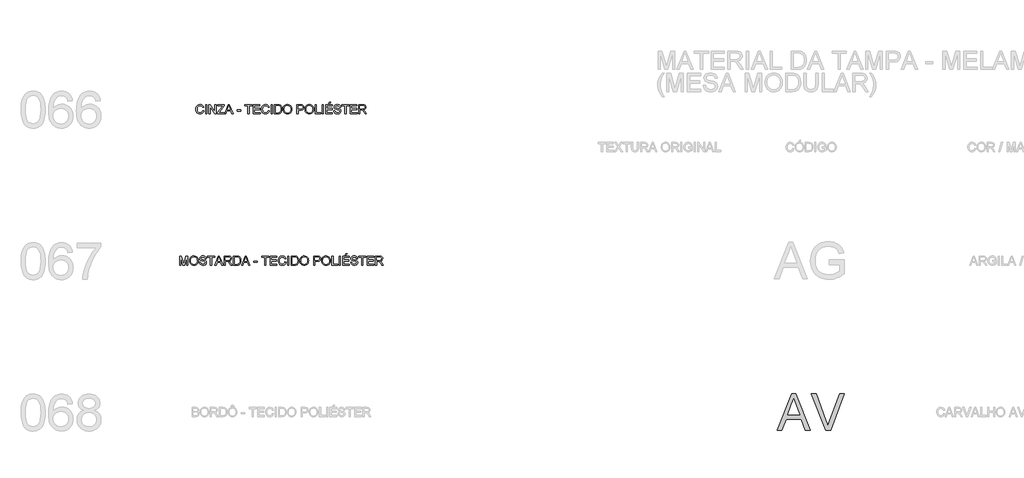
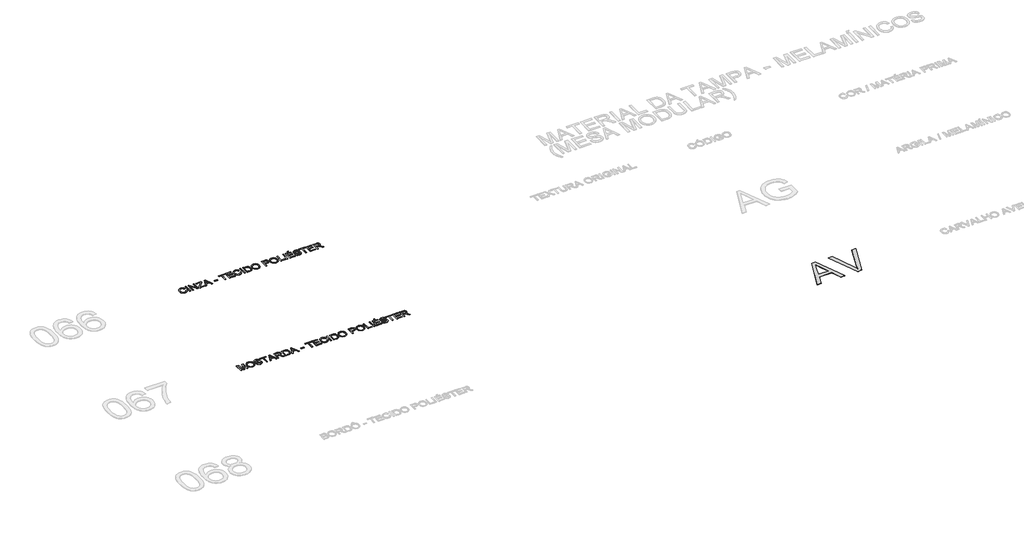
# One storey, part 36 of 67: 3 proxies.
"""IFC4 building model written with IfcOpenShell, lengths in millimetres."""

from ifc_helpers import new_model, si_unit, origin, origin_with_axes, place, context, project, spatial, polyline, outline, extrude, element, save

model = new_model("IFC4")

# Units and contexts
model_context = context("Model", 3, world=origin())
ifc_project = project(units=[si_unit("LENGTHUNIT", "METRE", prefix="MILLI")], contexts=[model_context])

# Site, building, storey
site = spatial("IfcSite", under=ifc_project)
building = spatial("IfcBuilding", under=site)
storey = spatial("IfcBuildingStorey", under=building, Name="Marelli - Linha COLAB - Planta Baixa", Elevation=0.0)

# Proxies
placement = place(None, origin())
element("IfcBuildingElementProxy", 1, Name="1200mm Arial", ObjectType="1200mm Arial", at=placement, inside=storey, context=model_context, shape_type="SweptSolid", body=[
    extrude(outline(polyline([(24782.0804213, -92988.8184403), (25263.270071, -91783.3427185), (25391.5873109, -91783.3427185), (25872.7769606, -92988.8184403), (25713.5576331, -92988.8184403), (25575.5283085, -92612.1072772), (25079.0347678, -92612.1072772), (24941.2997488, -92988.8184403), (24782.0804213, -92988.8184403)]), holes=[polyline([(25134.3642199, -92461.422812), (25520.493162, -92461.422812), (25411.894397, -92165.0570767), (25327.4286909, -91934.0271837), (25252.3807639, -92139.1581842), (25134.3642199, -92461.422812)])]), origin_with_axes(), (0.0, 0.0, 1.0), 10.0),
    extrude(outline(polyline([(26389.871893, -92988.8184403), (25910.1537713, -91783.3427185), (26071.433238, -91783.3427185), (26392.5206434, -92651.8385327), (26428.2051969, -92753.0060814), (26457.5621801, -92847.5517541), (26487.4341981, -92749.621567), (26521.7208001, -92651.8385327), (26843.6911222, -91783.3427185), (27004.9705889, -91783.3427185), (26545.5595534, -92988.8184403), (26389.871893, -92988.8184403)])), origin_with_axes(), (0.0, 0.0, 1.0), 10.0),
])
element("IfcBuildingElementProxy", 2, Name="300mm Arial", ObjectType="300mm Arial", at=placement, inside=storey, context=model_context, shape_type="SweptSolid", body=[
    extrude(outline(polyline([(5814.3784133, -82423.4390831), (5852.0495296, -82433.1511677), (5844.5953207, -82456.5783531), (5834.6671054, -82477.0486868), (5822.2648836, -82494.5621691), (5807.3886554, -82509.1187997), (5790.3741131, -82520.5622291), (5771.5569491, -82528.7361071), (5750.9371633, -82533.640434), (5728.5147556, -82535.2752096), (5684.8195717, -82530.3271968), (5650.1191025, -82515.4831583), (5623.5212342, -82491.2581289), (5604.1338531, -82458.1671434), (5592.2972499, -82419.2636224), (5588.3517155, -82377.6009865), (5592.8122847, -82333.6574821), (5606.1939923, -82295.7104543), (5627.7978624, -82264.9647166), (5656.9249194, -82242.6250824), (5691.4690387, -82229.0226457), (5729.324096, -82224.4885001), (5770.628047, -82230.3562179), (5788.5967832, -82237.6908652), (5804.7766932, -82247.9593714), (5818.9010626, -82260.8904235), (5830.7031769, -82276.2127086), (5847.3406401, -82314.0309777), (5809.6695238, -82323.0072984), (5796.609713, -82295.5357104), (5778.7674362, -82276.6909552), (5755.9219643, -82265.7924511), (5727.8525681, -82262.1596164), (5695.4973466, -82266.1879242), (5668.9178724, -82278.2728478), (5648.748742, -82297.1451941), (5635.6245519, -82321.5357704), (5628.4232618, -82349.1085259), (5626.0228318, -82377.5274101), (5628.8647202, -82412.3290468), (5637.3903854, -82442.421794), (5651.9217243, -82466.6560205), (5672.7806334, -82483.8820949), (5697.787412, -82494.1735937), (5724.7623593, -82497.6040933), (5756.2070728, -82492.931992), (5782.4094679, -82478.9156879), (5802.1923222, -82455.702334), (5814.3784133, -82423.4390831)])), origin_with_axes(), (0.0, 0.0, 1.0), 10.0),
    extrude(outline(polyline([(5908.5562041, -82530.5663201), (5908.5562041, -82229.1973896), (5946.2273204, -82229.1973896), (5946.2273204, -82530.5663201), (5908.5562041, -82530.5663201)])), origin_with_axes(), (0.0, 0.0, 1.0), 10.0),
    extrude(outline(polyline([(6021.569553, -82530.5663201), (6021.569553, -82229.1973896), (6061.8894197, -82229.1973896), (6219.3429136, -82467.9528045), (6219.3429136, -82229.1973896), (6257.0140299, -82229.1973896), (6257.0140299, -82530.5663201), (6216.6941632, -82530.5663201), (6059.2406693, -82291.7373288), (6059.2406693, -82530.5663201), (6021.569553, -82530.5663201)])), origin_with_axes(), (0.0, 0.0, 1.0), 10.0),
    extrude(outline(polyline([(6299.3940358, -82530.5663201), (6299.3940358, -82491.4972522), (6453.5365917, -82302.7737887), (6482.8199986, -82266.8685059), (6318.2295939, -82266.8685059), (6318.2295939, -82229.1973896), (6530.1296231, -82229.1973896), (6530.1296231, -82266.8685059), (6361.4189401, -82473.397458), (6345.526438, -82492.8952038), (6534.8385127, -82492.8952038), (6534.8385127, -82530.5663201), (6299.3940358, -82530.5663201)])), origin_with_axes(), (0.0, 0.0, 1.0), 10.0),
    extrude(outline(polyline([(6542.1225762, -82530.5663201), (6662.4199886, -82229.1973896), (6694.4992986, -82229.1973896), (6814.796711, -82530.5663201), (6774.9918791, -82530.5663201), (6740.484548, -82436.3885293), (6616.3611628, -82436.3885293), (6581.9274081, -82530.5663201), (6542.1225762, -82530.5663201)]), holes=[polyline([(6630.1935258, -82398.717413), (6726.7257614, -82398.717413), (6699.5760701, -82324.6259792), (6678.4596436, -82266.8685059), (6659.6976618, -82318.1512561), (6630.1935258, -82398.717413)])]), origin_with_axes(), (0.0, 0.0, 1.0), 10.0),
    extrude(outline(polyline([(6949.220792, -82441.0974188), (6949.220792, -82403.4263025), (7066.9430305, -82403.4263025), (7066.9430305, -82441.0974188), (6949.220792, -82441.0974188)])), origin_with_axes(), (0.0, 0.0, 1.0), 10.0),
    extrude(outline(polyline([(7307.096397, -82530.5663201), (7307.096397, -82266.8685059), (7208.2097166, -82266.8685059), (7208.2097166, -82229.1973896), (7443.6541936, -82229.1973896), (7443.6541936, -82266.8685059), (7344.7675133, -82266.8685059), (7344.7675133, -82530.5663201), (7307.096397, -82530.5663201)])), origin_with_axes(), (0.0, 0.0, 1.0), 10.0),
    extrude(outline(polyline([(7486.0341994, -82530.5663201), (7486.0341994, -82229.1973896), (7702.6431182, -82229.1973896), (7702.6431182, -82266.8685059), (7523.7053157, -82266.8685059), (7523.7053157, -82356.3374072), (7693.2253391, -82356.3374072), (7693.2253391, -82394.0085235), (7523.7053157, -82394.0085235), (7523.7053157, -82492.8952038), (7707.3520077, -82492.8952038), (7707.3520077, -82530.5663201), (7486.0341994, -82530.5663201)])), origin_with_axes(), (0.0, 0.0, 1.0), 10.0),
    extrude(outline(polyline([(7975.7587114, -82423.4390831), (8013.4298277, -82433.1511677), (8005.9756188, -82456.5783531), (7996.0474034, -82477.0486868), (7983.6451817, -82494.5621691), (7968.7689535, -82509.1187997), (7951.7544112, -82520.5622291), (7932.9372471, -82528.7361071), (7912.3174613, -82533.640434), (7889.8950537, -82535.2752096), (7846.1998697, -82530.3271968), (7811.4994005, -82515.4831583), (7784.9015323, -82491.2581289), (7765.5141511, -82458.1671434), (7753.6775479, -82419.2636224), (7749.7320135, -82377.6009865), (7754.1925827, -82333.6574821), (7767.5742903, -82295.7104543), (7789.1781605, -82264.9647166), (7818.3052174, -82242.6250824), (7852.8493368, -82229.0226457), (7890.7043941, -82224.4885001), (7932.0083451, -82230.3562179), (7949.9770813, -82237.6908652), (7966.1569913, -82247.9593714), (7980.2813607, -82260.8904235), (7992.0834749, -82276.2127086), (8008.7209382, -82314.0309777), (7971.0498218, -82323.0072984), (7957.990011, -82295.5357104), (7940.1477343, -82276.6909552), (7917.3022624, -82265.7924511), (7889.2328661, -82262.1596164), (7856.8776446, -82266.1879242), (7830.2981705, -82278.2728478), (7810.1290401, -82297.1451941), (7797.0048499, -82321.5357704), (7789.8035599, -82349.1085259), (7787.4031299, -82377.5274101), (7790.2450183, -82412.3290468), (7798.7706835, -82442.421794), (7813.3020223, -82466.6560205), (7834.1609314, -82483.8820949), (7859.1677101, -82494.1735937), (7886.1426574, -82497.6040933), (7917.5873709, -82492.931992), (7943.789766, -82478.9156879), (7963.5726203, -82455.702334), (7975.7587114, -82423.4390831)])), origin_with_axes(), (0.0, 0.0, 1.0), 10.0),
    extrude(outline(polyline([(8069.9365021, -82530.5663201), (8069.9365021, -82229.1973896), (8107.6076185, -82229.1973896), (8107.6076185, -82530.5663201), (8069.9365021, -82530.5663201)])), origin_with_axes(), (0.0, 0.0, 1.0), 10.0),
    extrude(outline(polyline([(8182.9498511, -82530.5663201), (8182.9498511, -82229.1973896), (8286.9133029, -82229.1973896), (8340.6976506, -82233.5383972), (8364.7203449, -82241.9077126), (8384.9906428, -82255.0962821), (8405.8311578, -82278.0521186), (8420.6751964, -82306.5997614), (8429.5595465, -82340.1873876), (8432.5209966, -82378.2631741), (8430.5160397, -82410.6091985), (8424.5011691, -82439.0740679), (8415.3409074, -82463.3082943), (8403.8997774, -82482.9623899), (8390.7296019, -82498.477813), (8376.3822041, -82510.2960221), (8359.9102878, -82519.0608107), (8340.3665568, -82525.4159721), (8291.916498, -82530.5663201), (8182.9498511, -82530.5663201)]), holes=[polyline([(8220.6209674, -82492.8952038), (8287.2811849, -82492.8952038), (8314.8539404, -82491.5340404), (8335.7680319, -82487.4505502), (8351.5501695, -82480.8838566), (8363.7270635, -82472.0730828), (8376.8144655, -82455.7667134), (8386.6461118, -82434.6594839), (8392.7989382, -82408.6594239), (8394.8498803, -82377.6745629), (8390.8307695, -82336.6189322), (8378.7734371, -82306.3054558), (8360.9587515, -82285.4833349), (8339.667581, -82272.9017706), (8317.9993315, -82268.3768221), (8286.2511153, -82266.8685059), (8220.6209674, -82266.8685059), (8220.6209674, -82492.8952038)])]), origin_with_axes(), (0.0, 0.0, 1.0), 10.0),
    extrude(outline(polyline([(8470.1921129, -82383.8549804), (8472.7029075, -82348.5061192), (8480.2352914, -82317.213157), (8492.7892645, -82289.9760937), (8510.3648268, -82266.7949295), (8531.9089161, -82248.2858666), (8556.3684703, -82235.0651074), (8583.7434892, -82227.1326519), (8614.033973, -82224.4885001), (8653.5628934, -82229.454907), (8689.0083236, -82244.3541278), (8718.4388832, -82268.1376988), (8739.9231918, -82299.7571563), (8753.056579, -82337.68579), (8757.4343747, -82380.3968896), (8752.8266527, -82423.6782064), (8739.0034868, -82462.140269), (8716.728232, -82493.8149088), (8686.7642435, -82516.733957), (8651.6223159, -82530.6398965), (8613.8132438, -82535.2752096), (8573.6773181, -82530.1524528), (8538.0295528, -82514.7841825), (8508.6725696, -82490.5591531), (8487.4089903, -82458.8661192), (8474.4963322, -82422.3998164), (8470.1921129, -82383.8549804)]), holes=[polyline([(8507.8632292, -82384.2228624), (8509.7463252, -82409.1974513), (8515.3956131, -82431.3669401), (8524.8110929, -82450.7313286), (8537.9927646, -82467.2906169), (8554.0163248, -82480.5527628), (8571.9574698, -82490.0257242), (8591.8161998, -82495.709501), (8613.5925146, -82497.6040933), (8635.74131, -82495.6911069), (8655.8345647, -82489.9521478), (8673.8722788, -82480.3872159), (8689.8544522, -82466.9963113), (8702.9395549, -82450.0875351), (8712.2860569, -82429.9689885), (8717.893958, -82406.6406715), (8719.7632584, -82380.102584), (8716.5626851, -82346.7540812), (8706.960965, -82317.9305269), (8691.2064186, -82294.358488), (8669.5473661, -82276.7645316), (8643.4185474, -82265.8108452), (8614.2547022, -82262.1596164), (8593.2348447, -82263.9185522), (8573.7325004, -82269.1953595), (8555.7476694, -82277.9900385), (8539.2803516, -82290.302589), (8525.5353606, -82306.7262208), (8515.7175098, -82327.8541437), (8509.8267994, -82353.6863575), (8507.8632292, -82384.2228624)])]), origin_with_axes(), (0.0, 0.0, 1.0), 10.0),
    extrude(outline(polyline([(8926.9543981, -82530.5663201), (8926.9543981, -82229.1973896), (9038.6433718, -82229.1973896), (9083.6721281, -82232.0668692), (9103.7492879, -82237.4287493), (9120.2763866, -82246.1567496), (9133.5845178, -82258.6463433), (9144.0047753, -82275.2930036), (9150.7370158, -82294.9287051), (9152.9810959, -82316.3854225), (9151.465882, -82334.8852883), (9146.9202401, -82351.9044291), (9139.3441702, -82367.4428449), (9128.7376725, -82381.5005356), (9114.1764432, -82393.1531978), (9094.7361791, -82401.476528), (9070.4168799, -82406.470526), (9041.2185458, -82408.1351921), (8964.6255144, -82408.1351921), (8964.6255144, -82530.5663201), (8926.9543981, -82530.5663201)]), holes=[polyline([(8964.6255144, -82370.4640758), (9043.4258378, -82370.4640758), (9076.8295229, -82367.005985), (9098.9024427, -82356.6317127), (9111.2080954, -82339.9850525), (9115.3099796, -82317.7097977), (9112.8911555, -82300.7872259), (9105.6346832, -82286.5134045), (9094.4418735, -82275.7712502), (9080.2140373, -82269.4436799), (9042.542921, -82266.8685059), (8964.6255144, -82266.8685059), (8964.6255144, -82370.4640758)])]), origin_with_axes(), (0.0, 0.0, 1.0), 10.0),
    extrude(outline(polyline([(9190.6522123, -82383.8549804), (9193.1630069, -82348.5061192), (9200.6953907, -82317.213157), (9213.2493638, -82289.9760937), (9230.8249261, -82266.7949295), (9252.3690155, -82248.2858666), (9276.8285696, -82235.0651074), (9304.2035886, -82227.1326519), (9334.4940724, -82224.4885001), (9374.0229928, -82229.454907), (9409.468423, -82244.3541278), (9438.8989826, -82268.1376988), (9460.3832911, -82299.7571563), (9473.5166783, -82337.68579), (9477.8944741, -82380.3968896), (9473.2867521, -82423.6782064), (9459.4635861, -82462.140269), (9437.1883313, -82493.8149088), (9407.2243428, -82516.733957), (9372.0824152, -82530.6398965), (9334.2733432, -82535.2752096), (9294.1374175, -82530.1524528), (9258.4896522, -82514.7841825), (9229.132669, -82490.5591531), (9207.8690896, -82458.8661192), (9194.9564316, -82422.3998164), (9190.6522123, -82383.8549804)]), holes=[polyline([(9228.3233286, -82384.2228624), (9230.2064245, -82409.1974513), (9235.8557124, -82431.3669401), (9245.2711922, -82450.7313286), (9258.452864, -82467.2906169), (9274.4764241, -82480.5527628), (9292.4175692, -82490.0257242), (9312.2762991, -82495.709501), (9334.052614, -82497.6040933), (9356.2014093, -82495.6911069), (9376.2946641, -82489.9521478), (9394.3323781, -82480.3872159), (9410.3145516, -82466.9963113), (9423.3996543, -82450.0875351), (9432.7461562, -82429.9689885), (9438.3540574, -82406.6406715), (9440.2233578, -82380.102584), (9437.0227844, -82346.7540812), (9427.4210644, -82317.9305269), (9411.6665179, -82294.358488), (9390.0074654, -82276.7645316), (9363.8786467, -82265.8108452), (9334.7148016, -82262.1596164), (9313.6949441, -82263.9185522), (9294.1925998, -82269.1953595), (9276.2077688, -82277.9900385), (9259.7404509, -82290.302589), (9245.9954599, -82306.7262208), (9236.1776092, -82327.8541437), (9230.2868987, -82353.6863575), (9228.3233286, -82384.2228624)])]), origin_with_axes(), (0.0, 0.0, 1.0), 10.0),
    extrude(outline(polyline([(9529.692259, -82530.5663201), (9529.692259, -82229.1973896), (9567.3633753, -82229.1973896), (9567.3633753, -82492.8952038), (9718.0478405, -82492.8952038), (9718.0478405, -82530.5663201), (9529.692259, -82530.5663201)])), origin_with_axes(), (0.0, 0.0, 1.0), 10.0),
    extrude(outline(polyline([(9765.1367359, -82530.5663201), (9765.1367359, -82229.1973896), (9802.8078522, -82229.1973896), (9802.8078522, -82530.5663201), (9765.1367359, -82530.5663201)])), origin_with_axes(), (0.0, 0.0, 1.0), 10.0),
    extrude(outline(polyline([(9878.1500848, -82530.5663201), (9878.1500848, -82229.1973896), (10094.7590036, -82229.1973896), (10094.7590036, -82266.8685059), (9915.8212011, -82266.8685059), (9915.8212011, -82356.3374072), (10085.3412245, -82356.3374072), (10085.3412245, -82394.0085235), (9915.8212011, -82394.0085235), (9915.8212011, -82492.8952038), (10099.4678931, -82492.8952038), (10099.4678931, -82530.5663201), (9878.1500848, -82530.5663201)])), origin_with_axes(), (0.0, 0.0, 1.0), 10.0),
    extrude(outline(polyline([(9962.9100965, -82210.3618315), (9991.1634338, -82153.855157), (10038.2523291, -82153.855157), (9991.1634338, -82210.3618315), (9962.9100965, -82210.3618315)])), origin_with_axes(), (0.0, 0.0, 1.0), 10.0),
    extrude(outline(polyline([(10141.847899, -82426.9707502), (10179.5190153, -82426.9707502), (10183.8416287, -82447.8756446), (10191.6591211, -82464.6786547), (10203.8544093, -82478.0143771), (10221.3104099, -82488.517408), (10242.6475657, -82495.332422), (10266.486319, -82497.6040933), (10287.4739868, -82495.884245), (10305.8496924, -82490.7247), (10320.7397162, -82482.5577197), (10331.2703383, -82471.8155654), (10337.5335293, -82459.4823216), (10339.6212596, -82446.5420724), (10338.0577611, -82433.932917), (10333.3672657, -82423.0344129), (10323.839122, -82413.7361954), (10307.7626788, -82405.9279001), (10252.9114733, -82391.5437141), (10216.9050231, -82382.0247675), (10193.8664131, -82372.9656733), (10175.1136284, -82360.2921386), (10161.8238913, -82344.9330653), (10153.9052314, -82327.2195472), (10151.2656781, -82307.4826782), (10154.5306308, -82285.4189555), (10164.3254889, -82264.845155), (10180.392735, -82247.4075484), (10202.4748518, -82234.7524077), (10228.9807495, -82227.054477), (10258.3193387, -82224.4885001), (10290.104343, -82227.1740386), (10317.9162219, -82235.2306543), (10340.7616938, -82248.4928003), (10357.6474774, -82266.7949295), (10368.3344493, -82288.9966079), (10372.5834864, -82313.9574013), (10334.9123701, -82313.9574013), (10327.9961885, -82291.4798114), (10313.5752143, -82275.2562154), (10291.0424421, -82265.4337661), (10259.7908666, -82262.1596164), (10227.8035272, -82265.3969779), (10205.8593661, -82275.1090626), (10193.1674373, -82289.4012781), (10188.9367944, -82306.3790322), (10191.9350326, -82320.8551887), (10200.9297474, -82332.4986539), (10222.1933267, -82342.9097143), (10262.439617, -82353.541504), (10303.9734943, -82363.6398648), (10329.0998345, -82372.4506385), (10350.574946, -82386.1174547), (10365.5569403, -82402.9848441), (10374.358517, -82422.868866), (10377.2923759, -82445.5855792), (10373.9170586, -82468.8081301), (10363.7911067, -82490.6511236), (10347.3283874, -82509.4498935), (10324.942768, -82523.539774), (10298.023003, -82532.3413507), (10267.9578469, -82535.2752096), (10231.0500858, -82532.1114244), (10200.67223, -82522.620069), (10176.4747918, -82506.764355), (10158.1082832, -82484.5074943), (10146.3176652, -82457.3945912), (10141.847899, -82426.9707502)])), origin_with_axes(), (0.0, 0.0, 1.0), 10.0),
    extrude(outline(polyline([(10509.141283, -82530.5663201), (10509.141283, -82266.8685059), (10410.2546027, -82266.8685059), (10410.2546027, -82229.1973896), (10645.6990796, -82229.1973896), (10645.6990796, -82266.8685059), (10546.8123993, -82266.8685059), (10546.8123993, -82530.5663201), (10509.141283, -82530.5663201)])), origin_with_axes(), (0.0, 0.0, 1.0), 10.0),
    extrude(outline(polyline([(10688.0790854, -82530.5663201), (10688.0790854, -82229.1973896), (10904.6880042, -82229.1973896), (10904.6880042, -82266.8685059), (10725.7502017, -82266.8685059), (10725.7502017, -82356.3374072), (10895.2702251, -82356.3374072), (10895.2702251, -82394.0085235), (10725.7502017, -82394.0085235), (10725.7502017, -82492.8952038), (10909.3968937, -82492.8952038), (10909.3968937, -82530.5663201), (10688.0790854, -82530.5663201)])), origin_with_axes(), (0.0, 0.0, 1.0), 10.0),
    extrude(outline(polyline([(10965.9035682, -82530.5663201), (10965.9035682, -82229.1973896), (11095.7659125, -82229.1973896), (11130.6687168, -82231.2299376), (11156.0617715, -82237.3275817), (11174.6214181, -82248.5847708), (11189.0239983, -82266.0959537), (11198.2670334, -82287.8101885), (11201.3480451, -82311.6765329), (11196.2436824, -82341.3646099), (11180.9305944, -82365.9759154), (11169.3308152, -82376.0052983), (11154.9489285, -82384.0205273), (11117.8388322, -82394.0085235), (11139.2495643, -82410.1217548), (11169.7837699, -82448.8965171), (11220.0364504, -82530.5663201), (11176.258493, -82530.5663201), (11137.0422723, -82468.0999573), (11108.7153587, -82426.750021), (11088.8129428, -82407.2154871), (11070.8970896, -82400.0417882), (11049.0448991, -82398.717413), (11003.5746845, -82398.717413), (11003.5746845, -82530.5663201), (10965.9035682, -82530.5663201)]), holes=[polyline([(11003.5746845, -82361.0462967), (11087.8932378, -82361.0462967), (11112.1090701, -82359.7127245), (11130.898643, -82355.7120078), (11145.0437057, -82348.7774322), (11155.3260075, -82338.6422832), (11161.5891985, -82326.3826157), (11163.6769288, -82313.0744845), (11159.6946062, -82294.6987789), (11147.7476384, -82279.8915286), (11127.1922319, -82270.1242616), (11097.3845933, -82266.8685059), (11003.5746845, -82266.8685059), (11003.5746845, -82361.0462967)])]), origin_with_axes(), (0.0, 0.0, 1.0), 10.0),
])
element("IfcBuildingElementProxy", 3, Name="300mm Arial", ObjectType="300mm Arial", at=placement, inside=storey, context=model_context, shape_type="SweptSolid", body=[
    extrude(outline(polyline([(5049.1838634, -87530.5663201), (5049.1838634, -87229.1973896), (5114.0046709, -87229.1973896), (5175.6616933, -87441.6124536), (5188.0961047, -87485.9790223), (5201.5605858, -87437.9336337), (5262.1875386, -87229.1973896), (5327.0083461, -87229.1973896), (5327.0083461, -87530.5663201), (5289.3372298, -87530.5663201), (5289.3372298, -87266.8685059), (5213.6271152, -87530.5663201), (5162.5650943, -87530.5663201), (5086.8549797, -87266.8685059), (5086.8549797, -87530.5663201), (5049.1838634, -87530.5663201)])), origin_with_axes(), (0.0, 0.0, 1.0), 10.0),
    extrude(outline(polyline([(5378.806131, -87383.8549804), (5381.3169256, -87348.5061192), (5388.8493095, -87317.213157), (5401.4032826, -87289.9760937), (5418.9788449, -87266.7949295), (5440.5229342, -87248.2858666), (5464.9824884, -87235.0651074), (5492.3575074, -87227.1326519), (5522.6479911, -87224.4885001), (5562.1769115, -87229.454907), (5597.6223418, -87244.3541278), (5627.0529014, -87268.1376988), (5648.5372099, -87299.7571563), (5661.6705971, -87337.68579), (5666.0483929, -87380.3968896), (5661.4406709, -87423.6782064), (5647.6175049, -87462.140269), (5625.3422501, -87493.8149088), (5595.3782616, -87516.733957), (5560.236334, -87530.6398965), (5522.4272619, -87535.2752096), (5482.2913363, -87530.1524528), (5446.6435709, -87514.7841825), (5417.2865877, -87490.5591531), (5396.0230084, -87458.8661192), (5383.1103504, -87422.3998164), (5378.806131, -87383.8549804)]), holes=[polyline([(5416.4772473, -87384.2228624), (5418.3603433, -87409.1974513), (5424.0096312, -87431.3669401), (5433.425111, -87450.7313286), (5446.6067827, -87467.2906169), (5462.6303429, -87480.5527628), (5480.5714879, -87490.0257242), (5500.4302179, -87495.709501), (5522.2065328, -87497.6040933), (5544.3553281, -87495.6911069), (5564.4485828, -87489.9521478), (5582.4862969, -87480.3872159), (5598.4684704, -87466.9963113), (5611.5535731, -87450.0875351), (5620.900075, -87429.9689885), (5626.5079762, -87406.6406715), (5628.3772766, -87380.102584), (5625.1767032, -87346.7540812), (5615.5749831, -87317.9305269), (5599.8204367, -87294.358488), (5578.1613842, -87276.7645316), (5552.0325655, -87265.8108452), (5522.8687203, -87262.1596164), (5501.8488628, -87263.9185522), (5482.3465186, -87269.1953595), (5464.3616875, -87277.9900385), (5447.8943697, -87290.302589), (5434.1493787, -87306.7262208), (5424.3315279, -87327.8541437), (5418.4408175, -87353.6863575), (5416.4772473, -87384.2228624)])]), origin_with_axes(), (0.0, 0.0, 1.0), 10.0),
    extrude(outline(polyline([(5703.7195092, -87426.9707502), (5741.3906255, -87426.9707502), (5745.7132389, -87447.8756446), (5753.5307313, -87464.6786547), (5765.7260195, -87478.0143771), (5783.1820201, -87488.517408), (5804.5191759, -87495.332422), (5828.3579291, -87497.6040933), (5849.345597, -87495.884245), (5867.7213026, -87490.7247), (5882.6113264, -87482.5577197), (5893.1419485, -87471.8155654), (5899.4051395, -87459.4823216), (5901.4928698, -87446.5420724), (5899.9293713, -87433.932917), (5895.2388759, -87423.0344129), (5885.7107322, -87413.7361954), (5869.634289, -87405.9279001), (5814.7830835, -87391.5437141), (5778.7766332, -87382.0247675), (5755.7380233, -87372.9656733), (5736.9852386, -87360.2921386), (5723.6955015, -87344.9330653), (5715.7768416, -87327.2195472), (5713.1372882, -87307.4826782), (5716.402241, -87285.4189555), (5726.1970991, -87264.845155), (5742.2643452, -87247.4075484), (5764.346462, -87234.7524077), (5790.8523597, -87227.054477), (5820.1909488, -87224.4885001), (5851.9759532, -87227.1740386), (5879.7878321, -87235.2306543), (5902.633304, -87248.4928003), (5919.5190875, -87266.7949295), (5930.2060595, -87288.9966079), (5934.4550965, -87313.9574013), (5896.7839802, -87313.9574013), (5889.8677987, -87291.4798114), (5875.4468245, -87275.2562154), (5852.9140523, -87265.4337661), (5821.6624768, -87262.1596164), (5789.6751373, -87265.3969779), (5767.7309763, -87275.1090626), (5755.0390475, -87289.4012781), (5750.8084046, -87306.3790322), (5753.8066428, -87320.8551887), (5762.8013576, -87332.4986539), (5784.0649369, -87342.9097143), (5824.3112272, -87353.541504), (5865.8451044, -87363.6398648), (5890.9714447, -87372.4506385), (5912.4465562, -87386.1174547), (5927.4285504, -87402.9848441), (5936.2301272, -87422.868866), (5939.1639861, -87445.5855792), (5935.7886688, -87468.8081301), (5925.6627169, -87490.6511236), (5909.1999976, -87509.4498935), (5886.8143782, -87523.539774), (5859.8946132, -87532.3413507), (5829.8294571, -87535.2752096), (5792.921696, -87532.1114244), (5762.5438402, -87522.620069), (5738.346402, -87506.764355), (5719.9798934, -87484.5074943), (5708.1892754, -87457.3945912), (5703.7195092, -87426.9707502)])), origin_with_axes(), (0.0, 0.0, 1.0), 10.0),
    extrude(outline(polyline([(6071.0128932, -87530.5663201), (6071.0128932, -87266.8685059), (5972.1262129, -87266.8685059), (5972.1262129, -87229.1973896), (6207.5706898, -87229.1973896), (6207.5706898, -87266.8685059), (6108.6840095, -87266.8685059), (6108.6840095, -87530.5663201), (6071.0128932, -87530.5663201)])), origin_with_axes(), (0.0, 0.0, 1.0), 10.0),
    extrude(outline(polyline([(6214.8547533, -87530.5663201), (6335.1521657, -87229.1973896), (6367.2314757, -87229.1973896), (6487.5288881, -87530.5663201), (6447.7240562, -87530.5663201), (6413.2167251, -87436.3885293), (6289.0933399, -87436.3885293), (6254.6595851, -87530.5663201), (6214.8547533, -87530.5663201)]), holes=[polyline([(6302.9257029, -87398.717413), (6399.4579385, -87398.717413), (6372.3082472, -87324.6259792), (6351.1918207, -87266.8685059), (6332.4298389, -87318.1512561), (6302.9257029, -87398.717413)])]), origin_with_axes(), (0.0, 0.0, 1.0), 10.0),
    extrude(outline(polyline([(6527.7751784, -87530.5663201), (6527.7751784, -87229.1973896), (6657.6375227, -87229.1973896), (6692.540327, -87231.2299376), (6717.9333817, -87237.3275817), (6736.4930283, -87248.5847708), (6750.8956084, -87266.0959537), (6760.1386436, -87287.8101885), (6763.2196553, -87311.6765329), (6758.1152926, -87341.3646099), (6742.8022045, -87365.9759154), (6731.2024254, -87376.0052983), (6716.8205386, -87384.0205273), (6679.7104424, -87394.0085235), (6701.1211745, -87410.1217548), (6731.6553801, -87448.8965171), (6781.9080606, -87530.5663201), (6738.1301032, -87530.5663201), (6698.9138825, -87468.0999573), (6670.5869689, -87426.750021), (6650.684553, -87407.2154871), (6632.7686998, -87400.0417882), (6610.9165093, -87398.717413), (6565.4462947, -87398.717413), (6565.4462947, -87530.5663201), (6527.7751784, -87530.5663201)]), holes=[polyline([(6565.4462947, -87361.0462967), (6649.764848, -87361.0462967), (6673.9806803, -87359.7127245), (6692.7702532, -87355.7120078), (6706.9153159, -87348.7774322), (6717.1976177, -87338.6422832), (6723.4608087, -87326.3826157), (6725.548539, -87313.0744845), (6721.5662164, -87294.6987789), (6709.6192486, -87279.8915286), (6689.0638421, -87270.1242616), (6659.2562034, -87266.8685059), (6565.4462947, -87266.8685059), (6565.4462947, -87361.0462967)])]), origin_with_axes(), (0.0, 0.0, 1.0), 10.0),
    extrude(outline(polyline([(6829.1441088, -87530.5663201), (6829.1441088, -87229.1973896), (6933.1075607, -87229.1973896), (6986.8919083, -87233.5383972), (7010.9146026, -87241.9077126), (7031.1849006, -87255.0962821), (7052.0254156, -87278.0521186), (7066.8694541, -87306.5997614), (7075.7538043, -87340.1873876), (7078.7152543, -87378.2631741), (7076.7102975, -87410.6091985), (7070.6954268, -87439.0740679), (7061.5351652, -87463.3082943), (7050.0940351, -87482.9623899), (7036.9238597, -87498.477813), (7022.5764619, -87510.2960221), (7006.1045455, -87519.0608107), (6986.5608146, -87525.4159721), (6938.1107558, -87530.5663201), (6829.1441088, -87530.5663201)]), holes=[polyline([(6866.8152251, -87492.8952038), (6933.4754426, -87492.8952038), (6961.0481982, -87491.5340404), (6981.9622896, -87487.4505502), (6997.7444272, -87480.8838566), (7009.9213212, -87472.0730828), (7023.0087232, -87455.7667134), (7032.8403695, -87434.6594839), (7038.9931959, -87408.6594239), (7041.044138, -87377.6745629), (7037.0250272, -87336.6189322), (7024.9676948, -87306.3054558), (7007.1530092, -87285.4833349), (6985.8618388, -87272.9017706), (6964.1935892, -87268.3768221), (6932.4453731, -87266.8685059), (6866.8152251, -87266.8685059), (6866.8152251, -87492.8952038)])]), origin_with_axes(), (0.0, 0.0, 1.0), 10.0),
    extrude(outline(polyline([(7095.4170969, -87530.5663201), (7215.7145093, -87229.1973896), (7247.7938193, -87229.1973896), (7368.0912318, -87530.5663201), (7328.2863999, -87530.5663201), (7293.7790687, -87436.3885293), (7169.6556836, -87436.3885293), (7135.2219288, -87530.5663201), (7095.4170969, -87530.5663201)]), holes=[polyline([(7183.4880466, -87398.717413), (7280.0202821, -87398.717413), (7252.8705909, -87324.6259792), (7231.7541643, -87266.8685059), (7212.9921826, -87318.1512561), (7183.4880466, -87398.717413)])]), origin_with_axes(), (0.0, 0.0, 1.0), 10.0),
    extrude(outline(polyline([(7502.5153128, -87441.0974188), (7502.5153128, -87403.4263025), (7620.2375512, -87403.4263025), (7620.2375512, -87441.0974188), (7502.5153128, -87441.0974188)])), origin_with_axes(), (0.0, 0.0, 1.0), 10.0),
    extrude(outline(polyline([(7860.3909177, -87530.5663201), (7860.3909177, -87266.8685059), (7761.5042374, -87266.8685059), (7761.5042374, -87229.1973896), (7996.9487143, -87229.1973896), (7996.9487143, -87266.8685059), (7898.062034, -87266.8685059), (7898.062034, -87530.5663201), (7860.3909177, -87530.5663201)])), origin_with_axes(), (0.0, 0.0, 1.0), 10.0),
    extrude(outline(polyline([(8039.3287202, -87530.5663201), (8039.3287202, -87229.1973896), (8255.9376389, -87229.1973896), (8255.9376389, -87266.8685059), (8076.9998365, -87266.8685059), (8076.9998365, -87356.3374072), (8246.5198598, -87356.3374072), (8246.5198598, -87394.0085235), (8076.9998365, -87394.0085235), (8076.9998365, -87492.8952038), (8260.6465284, -87492.8952038), (8260.6465284, -87530.5663201), (8039.3287202, -87530.5663201)])), origin_with_axes(), (0.0, 0.0, 1.0), 10.0),
    extrude(outline(polyline([(8529.0532321, -87423.4390831), (8566.7243484, -87433.1511677), (8559.2701395, -87456.5783531), (8549.3419242, -87477.0486868), (8536.9397024, -87494.5621691), (8522.0634742, -87509.1187997), (8505.0489319, -87520.5622291), (8486.2317679, -87528.7361071), (8465.6119821, -87533.640434), (8443.1895745, -87535.2752096), (8399.4943905, -87530.3271968), (8364.7939213, -87515.4831583), (8338.196053, -87491.2581289), (8318.8086719, -87458.1671434), (8306.9720687, -87419.2636224), (8303.0265343, -87377.6009865), (8307.4871035, -87333.6574821), (8320.8688111, -87295.7104543), (8342.4726812, -87264.9647166), (8371.5997382, -87242.6250824), (8406.1438575, -87229.0226457), (8443.9989148, -87224.4885001), (8485.3028659, -87230.3562179), (8503.2716021, -87237.6908652), (8519.4515121, -87247.9593714), (8533.5758814, -87260.8904235), (8545.3779957, -87276.2127086), (8562.0154589, -87314.0309777), (8524.3443426, -87323.0072984), (8511.2845318, -87295.5357104), (8493.442255, -87276.6909552), (8470.5967831, -87265.7924511), (8442.5273869, -87262.1596164), (8410.1721654, -87266.1879242), (8383.5926912, -87278.2728478), (8363.4235609, -87297.1451941), (8350.2993707, -87321.5357704), (8343.0980806, -87349.1085259), (8340.6976506, -87377.5274101), (8343.539539, -87412.3290468), (8352.0652043, -87442.421794), (8366.5965431, -87466.6560205), (8387.4554522, -87483.8820949), (8412.4622308, -87494.1735937), (8439.4371781, -87497.6040933), (8470.8818916, -87492.931992), (8497.0842867, -87478.9156879), (8516.867141, -87455.702334), (8529.0532321, -87423.4390831)])), origin_with_axes(), (0.0, 0.0, 1.0), 10.0),
    extrude(outline(polyline([(8623.2310229, -87530.5663201), (8623.2310229, -87229.1973896), (8660.9021392, -87229.1973896), (8660.9021392, -87530.5663201), (8623.2310229, -87530.5663201)])), origin_with_axes(), (0.0, 0.0, 1.0), 10.0),
    extrude(outline(polyline([(8736.2443718, -87530.5663201), (8736.2443718, -87229.1973896), (8840.2078237, -87229.1973896), (8893.9921713, -87233.5383972), (8918.0148656, -87241.9077126), (8938.2851636, -87255.0962821), (8959.1256786, -87278.0521186), (8973.9697171, -87306.5997614), (8982.8540673, -87340.1873876), (8985.8155173, -87378.2631741), (8983.8105605, -87410.6091985), (8977.7956898, -87439.0740679), (8968.6354282, -87463.3082943), (8957.1942981, -87482.9623899), (8944.0241227, -87498.477813), (8929.6767249, -87510.2960221), (8913.2048085, -87519.0608107), (8893.6610775, -87525.4159721), (8845.2110188, -87530.5663201), (8736.2443718, -87530.5663201)]), holes=[polyline([(8773.9154881, -87492.8952038), (8840.5757056, -87492.8952038), (8868.1484612, -87491.5340404), (8889.0625526, -87487.4505502), (8904.8446902, -87480.8838566), (8917.0215842, -87472.0730828), (8930.1089862, -87455.7667134), (8939.9406325, -87434.6594839), (8946.0934589, -87408.6594239), (8948.144401, -87377.6745629), (8944.1252902, -87336.6189322), (8932.0679578, -87306.3054558), (8914.2532722, -87285.4833349), (8892.9621018, -87272.9017706), (8871.2938522, -87268.3768221), (8839.5456361, -87266.8685059), (8773.9154881, -87266.8685059), (8773.9154881, -87492.8952038)])]), origin_with_axes(), (0.0, 0.0, 1.0), 10.0),
    extrude(outline(polyline([(9023.4866336, -87383.8549804), (9025.9974283, -87348.5061192), (9033.5298121, -87317.213157), (9046.0837852, -87289.9760937), (9063.6593475, -87266.7949295), (9085.2034369, -87248.2858666), (9109.662991, -87235.0651074), (9137.03801, -87227.1326519), (9167.3284938, -87224.4885001), (9206.8574141, -87229.454907), (9242.3028444, -87244.3541278), (9271.733404, -87268.1376988), (9293.2177125, -87299.7571563), (9306.3510997, -87337.68579), (9310.7288955, -87380.3968896), (9306.1211735, -87423.6782064), (9292.2980075, -87462.140269), (9270.0227527, -87493.8149088), (9240.0587642, -87516.733957), (9204.9168366, -87530.6398965), (9167.1077646, -87535.2752096), (9126.9718389, -87530.1524528), (9091.3240736, -87514.7841825), (9061.9670903, -87490.5591531), (9040.703511, -87458.8661192), (9027.790853, -87422.3998164), (9023.4866336, -87383.8549804)]), holes=[polyline([(9061.15775, -87384.2228624), (9063.0408459, -87409.1974513), (9068.6901338, -87431.3669401), (9078.1056136, -87450.7313286), (9091.2872854, -87467.2906169), (9107.3108455, -87480.5527628), (9125.2519906, -87490.0257242), (9145.1107205, -87495.709501), (9166.8870354, -87497.6040933), (9189.0358307, -87495.6911069), (9209.1290855, -87489.9521478), (9227.1667995, -87480.3872159), (9243.148973, -87466.9963113), (9256.2340757, -87450.0875351), (9265.5805776, -87429.9689885), (9271.1884788, -87406.6406715), (9273.0577792, -87380.102584), (9269.8572058, -87346.7540812), (9260.2554857, -87317.9305269), (9244.5009393, -87294.358488), (9222.8418868, -87276.7645316), (9196.7130681, -87265.8108452), (9167.549223, -87262.1596164), (9146.5293655, -87263.9185522), (9127.0270212, -87269.1953595), (9109.0421902, -87277.9900385), (9092.5748723, -87290.302589), (9078.8298813, -87306.7262208), (9069.0120306, -87327.8541437), (9063.1213201, -87353.6863575), (9061.15775, -87384.2228624)])]), origin_with_axes(), (0.0, 0.0, 1.0), 10.0),
    extrude(outline(polyline([(9480.2489189, -87530.5663201), (9480.2489189, -87229.1973896), (9591.9378926, -87229.1973896), (9636.9666488, -87232.0668692), (9657.0438087, -87237.4287493), (9673.5709073, -87246.1567496), (9686.8790385, -87258.6463433), (9697.299296, -87275.2930036), (9704.0315365, -87294.9287051), (9706.2756167, -87316.3854225), (9704.7604027, -87334.8852883), (9700.2147608, -87351.9044291), (9692.638691, -87367.4428449), (9682.0321932, -87381.5005356), (9667.470964, -87393.1531978), (9648.0306998, -87401.476528), (9623.7114007, -87406.470526), (9594.5130666, -87408.1351921), (9517.9200352, -87408.1351921), (9517.9200352, -87530.5663201), (9480.2489189, -87530.5663201)]), holes=[polyline([(9517.9200352, -87370.4640758), (9596.7203585, -87370.4640758), (9630.1240437, -87367.005985), (9652.1969634, -87356.6317127), (9664.5026161, -87339.9850525), (9668.6045004, -87317.7097977), (9666.1856763, -87300.7872259), (9658.9292039, -87286.5134045), (9647.7363942, -87275.7712502), (9633.508558, -87269.4436799), (9595.8374417, -87266.8685059), (9517.9200352, -87266.8685059), (9517.9200352, -87370.4640758)])]), origin_with_axes(), (0.0, 0.0, 1.0), 10.0),
    extrude(outline(polyline([(9743.946733, -87383.8549804), (9746.4575276, -87348.5061192), (9753.9899115, -87317.213157), (9766.5438846, -87289.9760937), (9784.1194469, -87266.7949295), (9805.6635362, -87248.2858666), (9830.1230904, -87235.0651074), (9857.4981093, -87227.1326519), (9887.7885931, -87224.4885001), (9927.3175135, -87229.454907), (9962.7629437, -87244.3541278), (9992.1935033, -87268.1376988), (10013.6778119, -87299.7571563), (10026.8111991, -87337.68579), (10031.1889948, -87380.3968896), (10026.5812728, -87423.6782064), (10012.7581069, -87462.140269), (9990.4828521, -87493.8149088), (9960.5188636, -87516.733957), (9925.376936, -87530.6398965), (9887.5678639, -87535.2752096), (9847.4319382, -87530.1524528), (9811.7841729, -87514.7841825), (9782.4271897, -87490.5591531), (9761.1636104, -87458.8661192), (9748.2509523, -87422.3998164), (9743.946733, -87383.8549804)]), holes=[polyline([(9781.6178493, -87384.2228624), (9783.5009453, -87409.1974513), (9789.1502332, -87431.3669401), (9798.565713, -87450.7313286), (9811.7473847, -87467.2906169), (9827.7709449, -87480.5527628), (9845.7120899, -87490.0257242), (9865.5708199, -87495.709501), (9887.3471347, -87497.6040933), (9909.4959301, -87495.6911069), (9929.5891848, -87489.9521478), (9947.6268989, -87480.3872159), (9963.6090723, -87466.9963113), (9976.694175, -87450.0875351), (9986.040677, -87429.9689885), (9991.6485781, -87406.6406715), (9993.5178785, -87380.102584), (9990.3173052, -87346.7540812), (9980.7155851, -87317.9305269), (9964.9610387, -87294.358488), (9943.3019862, -87276.7645316), (9917.1731675, -87265.8108452), (9888.0093223, -87262.1596164), (9866.9894648, -87263.9185522), (9847.4871205, -87269.1953595), (9829.5022895, -87277.9900385), (9813.0349717, -87290.302589), (9799.2899807, -87306.7262208), (9789.4721299, -87327.8541437), (9783.5814195, -87353.6863575), (9781.6178493, -87384.2228624)])]), origin_with_axes(), (0.0, 0.0, 1.0), 10.0),
    extrude(outline(polyline([(10082.9867798, -87530.5663201), (10082.9867798, -87229.1973896), (10120.6578961, -87229.1973896), (10120.6578961, -87492.8952038), (10271.3423613, -87492.8952038), (10271.3423613, -87530.5663201), (10082.9867798, -87530.5663201)])), origin_with_axes(), (0.0, 0.0, 1.0), 10.0),
    extrude(outline(polyline([(10318.4312567, -87530.5663201), (10318.4312567, -87229.1973896), (10356.102373, -87229.1973896), (10356.102373, -87530.5663201), (10318.4312567, -87530.5663201)])), origin_with_axes(), (0.0, 0.0, 1.0), 10.0),
    extrude(outline(polyline([(10431.4446056, -87530.5663201), (10431.4446056, -87229.1973896), (10648.0535243, -87229.1973896), (10648.0535243, -87266.8685059), (10469.1157219, -87266.8685059), (10469.1157219, -87356.3374072), (10638.6357453, -87356.3374072), (10638.6357453, -87394.0085235), (10469.1157219, -87394.0085235), (10469.1157219, -87492.8952038), (10652.7624139, -87492.8952038), (10652.7624139, -87530.5663201), (10431.4446056, -87530.5663201)])), origin_with_axes(), (0.0, 0.0, 1.0), 10.0),
    extrude(outline(polyline([(10516.2046173, -87210.3618315), (10544.4579545, -87153.855157), (10591.5468499, -87153.855157), (10544.4579545, -87210.3618315), (10516.2046173, -87210.3618315)])), origin_with_axes(), (0.0, 0.0, 1.0), 10.0),
    extrude(outline(polyline([(10695.1424197, -87426.9707502), (10732.813536, -87426.9707502), (10737.1361495, -87447.8756446), (10744.9536419, -87464.6786547), (10757.14893, -87478.0143771), (10774.6049307, -87488.517408), (10795.9420864, -87495.332422), (10819.7808397, -87497.6040933), (10840.7685075, -87495.884245), (10859.1442132, -87490.7247), (10874.0342369, -87482.5577197), (10884.564859, -87471.8155654), (10890.82805, -87459.4823216), (10892.9157803, -87446.5420724), (10891.3522819, -87433.932917), (10886.6617864, -87423.0344129), (10877.1336427, -87413.7361954), (10861.0571996, -87405.9279001), (10806.2059941, -87391.5437141), (10770.1995438, -87382.0247675), (10747.1609338, -87372.9656733), (10728.4081491, -87360.2921386), (10715.1184121, -87344.9330653), (10707.1997521, -87327.2195472), (10704.5601988, -87307.4826782), (10707.8251515, -87285.4189555), (10717.6200096, -87264.845155), (10733.6872558, -87247.4075484), (10755.7693725, -87234.7524077), (10782.2752703, -87227.054477), (10811.6138594, -87224.4885001), (10843.3988638, -87227.1740386), (10871.2107426, -87235.2306543), (10894.0562145, -87248.4928003), (10910.9419981, -87266.7949295), (10921.6289701, -87288.9966079), (10925.8780071, -87313.9574013), (10888.2068908, -87313.9574013), (10881.2907093, -87291.4798114), (10866.8697351, -87275.2562154), (10844.3369629, -87265.4337661), (10813.0853874, -87262.1596164), (10781.0980479, -87265.3969779), (10759.1538869, -87275.1090626), (10746.4619581, -87289.4012781), (10742.2313151, -87306.3790322), (10745.2295534, -87320.8551887), (10754.2242682, -87332.4986539), (10775.4878475, -87342.9097143), (10815.7341377, -87353.541504), (10857.268015, -87363.6398648), (10882.3943553, -87372.4506385), (10903.8694667, -87386.1174547), (10918.851461, -87402.9848441), (10927.6530377, -87422.868866), (10930.5868966, -87445.5855792), (10927.2115793, -87468.8081301), (10917.0856274, -87490.6511236), (10900.6229081, -87509.4498935), (10878.2372887, -87523.539774), (10851.3175237, -87532.3413507), (10821.2523677, -87535.2752096), (10784.3446065, -87532.1114244), (10753.9667508, -87522.620069), (10729.7693125, -87506.764355), (10711.4028039, -87484.5074943), (10699.612186, -87457.3945912), (10695.1424197, -87426.9707502)])), origin_with_axes(), (0.0, 0.0, 1.0), 10.0),
    extrude(outline(polyline([(11062.4358037, -87530.5663201), (11062.4358037, -87266.8685059), (10963.5491234, -87266.8685059), (10963.5491234, -87229.1973896), (11198.9936003, -87229.1973896), (11198.9936003, -87266.8685059), (11100.10692, -87266.8685059), (11100.10692, -87530.5663201), (11062.4358037, -87530.5663201)])), origin_with_axes(), (0.0, 0.0, 1.0), 10.0),
    extrude(outline(polyline([(11241.3736062, -87530.5663201), (11241.3736062, -87229.1973896), (11457.9825249, -87229.1973896), (11457.9825249, -87266.8685059), (11279.0447225, -87266.8685059), (11279.0447225, -87356.3374072), (11448.5647459, -87356.3374072), (11448.5647459, -87394.0085235), (11279.0447225, -87394.0085235), (11279.0447225, -87492.8952038), (11462.6914145, -87492.8952038), (11462.6914145, -87530.5663201), (11241.3736062, -87530.5663201)])), origin_with_axes(), (0.0, 0.0, 1.0), 10.0),
    extrude(outline(polyline([(11519.1980889, -87530.5663201), (11519.1980889, -87229.1973896), (11649.0604332, -87229.1973896), (11683.9632375, -87231.2299376), (11709.3562922, -87237.3275817), (11727.9159389, -87248.5847708), (11742.318519, -87266.0959537), (11751.5615541, -87287.8101885), (11754.6425658, -87311.6765329), (11749.5382032, -87341.3646099), (11734.2251151, -87365.9759154), (11722.6253359, -87376.0052983), (11708.2434492, -87384.0205273), (11671.1333529, -87394.0085235), (11692.5440851, -87410.1217548), (11723.0782907, -87448.8965171), (11773.3309712, -87530.5663201), (11729.5530138, -87530.5663201), (11690.3367931, -87468.0999573), (11662.0098795, -87426.750021), (11642.1074635, -87407.2154871), (11624.1916104, -87400.0417882), (11602.3394198, -87398.717413), (11556.8692052, -87398.717413), (11556.8692052, -87530.5663201), (11519.1980889, -87530.5663201)]), holes=[polyline([(11556.8692052, -87361.0462967), (11641.1877585, -87361.0462967), (11665.4035909, -87359.7127245), (11684.1931638, -87355.7120078), (11698.3382265, -87348.7774322), (11708.6205282, -87338.6422832), (11714.8837192, -87326.3826157), (11716.9714495, -87313.0744845), (11712.9891269, -87294.6987789), (11701.0421591, -87279.8915286), (11680.4867527, -87270.1242616), (11650.679114, -87266.8685059), (11556.8692052, -87266.8685059), (11556.8692052, -87361.0462967)])]), origin_with_axes(), (0.0, 0.0, 1.0), 10.0),
])

save(model, "model.ifc")
